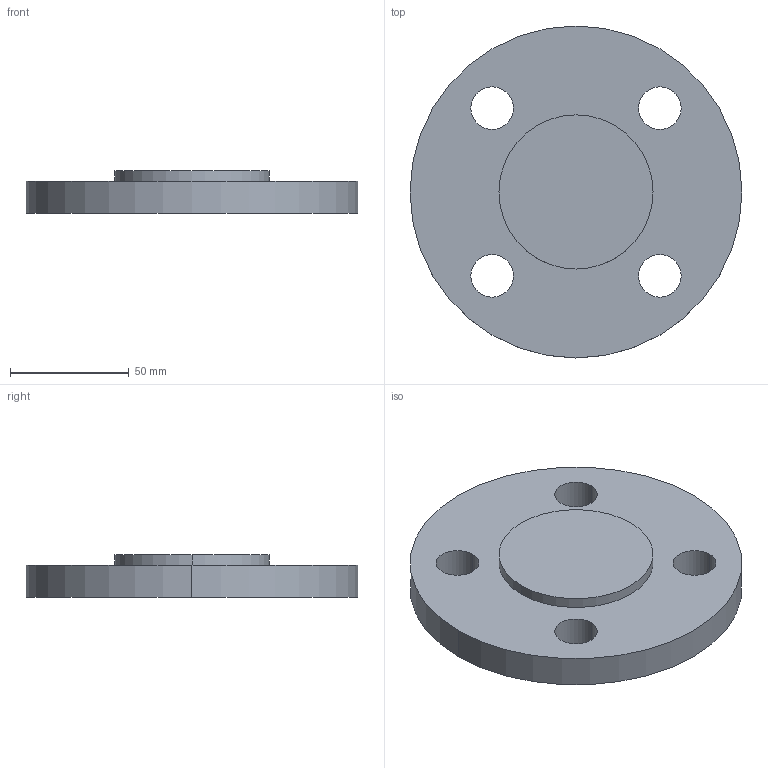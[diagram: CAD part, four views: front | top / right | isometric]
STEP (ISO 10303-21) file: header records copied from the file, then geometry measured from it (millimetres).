
FILE_DESCRIPTION (( 'STEP AP214' ), '1' );
FILE_NAME ('PN40 DN32 Type 05 - Type E Face.STEP', '2018-12-30T00:02:09', ( '' ), ( '' ), 'SwSTEP 2.0', 'SolidWorks 2019', '' );
FILE_SCHEMA (( 'AUTOMOTIVE_DESIGN' ));
Length unit declared in the file: millimetre
Products named in the file (1): PN40 DN32 Type 05 - Type E Face
Bounding box: 140 x 140 x 18 mm (x, y, z)
Volume: 209007.4 mm3; surface area: 38662 mm2
Topology: 1 solids, 1 shells, 15 faces, 36 edges, 24 vertices
Faces by surface type: cylinder 12, plane 3
Entity records: 504 total; most frequent: DIRECTION 92, CARTESIAN_POINT 76, ORIENTED_EDGE 72, AXIS2_PLACEMENT_3D 40, EDGE_CURVE 36, VERTEX_POINT 24, CIRCLE 24, EDGE_LOOP 24
